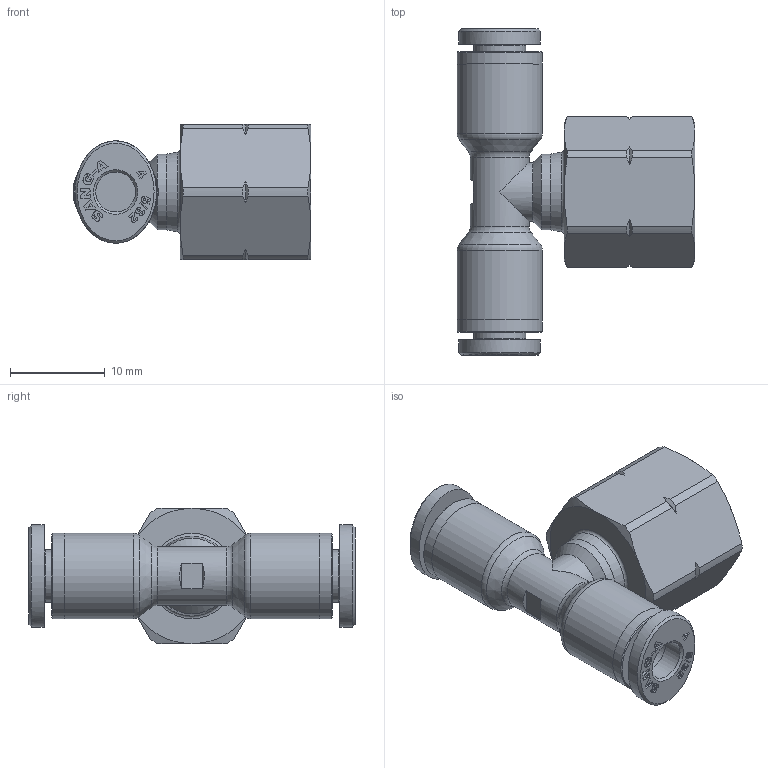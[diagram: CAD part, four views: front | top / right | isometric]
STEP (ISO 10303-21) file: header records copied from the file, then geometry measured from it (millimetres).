
FILE_DESCRIPTION((''),'2;1');
FILE_NAME('C:\Users\user0117\Desktop\김진일\G-FITTING INCH\5-32\PDF\G-FITTING INCH (STEP)\GPTF 5_32-N01U.stp','2020-04-21T19:07:11',('user0117'),(''),'Autodesk Inventor 2013','Autodesk Inventor 2013','');
FILE_SCHEMA(('AUTOMOTIVE_DESIGN { 1 0 10303 214 1 1 1 1 }'));
Length unit declared in the file: millimetre
Products named in the file (6): GPTF 5_32-N01U; GPLF BODY 5_32-N01U(BRASS); GPT BODY-04(PLASTIC); G-COLLAR 5-32L; COLLAR G04L; SLEEVE G04
Assembly tree (6 placements, depth 3):
  GPTF 5_32-N01U
    GPLF BODY 5_32-N01U(BRASS)
    GPT BODY-04(PLASTIC)
    G-COLLAR 5-32L  x2
      COLLAR G04L
      SLEEVE G04
Bounding box: 25.1 x 34.4 x 14.29 mm (x, y, z)
Volume: 3253.9 mm3; surface area: 3568 mm2
Topology: 6 solids, 6 shells, 399 faces, 1028 edges, 678 vertices
Faces by surface type: plane 210, bspline 118, cone 36, cylinder 30, torus 5
Full cylindrical faces by diameter (mm): 4 x1, 4.2 x6, 5 x1, 5.5 x2, 6.2 x2, 7.2 x1, 8 x1, 9 x4
Entity records: 7600 total; most frequent: CARTESIAN_POINT 2305, ORIENTED_EDGE 1130, DIRECTION 869, EDGE_CURVE 565, VERTEX_POINT 387, VECTOR 313, LINE 313, EDGE_LOOP 296
